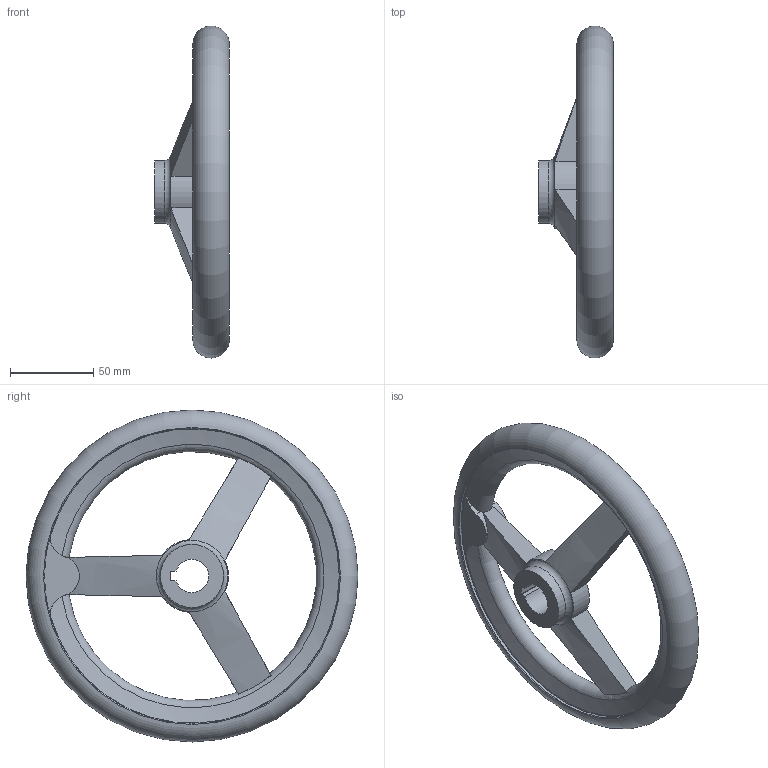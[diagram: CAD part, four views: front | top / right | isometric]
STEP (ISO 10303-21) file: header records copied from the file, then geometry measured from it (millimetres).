
FILE_DESCRIPTION( ( 'STEP AP203' ), '1' );
FILE_NAME( 'C:/Temp/Ganter_Step_05_03_2020/data/1_3/din_950/din_950_k/din_950_k_a/Handwheel DIN 950-GG-200-K20-A.stp', '2020-03-05T10:30:37', ( 'License CC BY-ND 4.0' ), ( 'CADENAS' ), ' ', 'PARTsolutions', ' ' );
FILE_SCHEMA( ( 'CONFIG_CONTROL_DESIGN' ) );
Length unit declared in the file: millimetre
Products named in the file (1): _Handwheel DIN 950-GG-200-K20-A
Bounding box: 45 x 200 x 200 mm (x, y, z)
Volume: 274141.9 mm3; surface area: 59142.1 mm2
Topology: 1 solids, 1 shells, 47 faces, 137 edges, 88 vertices
Faces by surface type: cylinder 16, torus 14, plane 13, cone 4
Full cylindrical faces by diameter (mm): 38 x2, 178 x2
Entity records: 1927 total; most frequent: CARTESIAN_POINT 756, ORIENTED_EDGE 240, DIRECTION 214, EDGE_CURVE 120, AXIS2_PLACEMENT_3D 94, VERTEX_POINT 85, EDGE_LOOP 64, FACE_OUTER_BOUND 58
